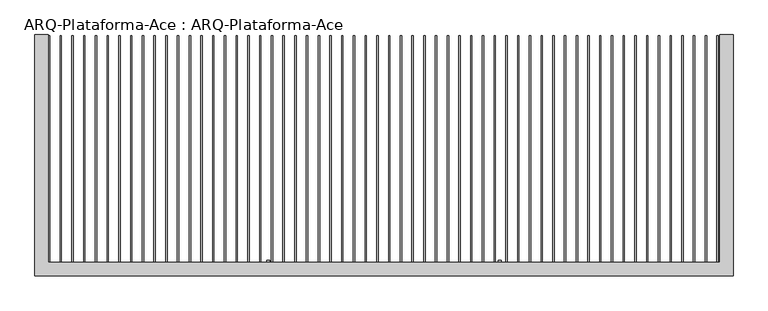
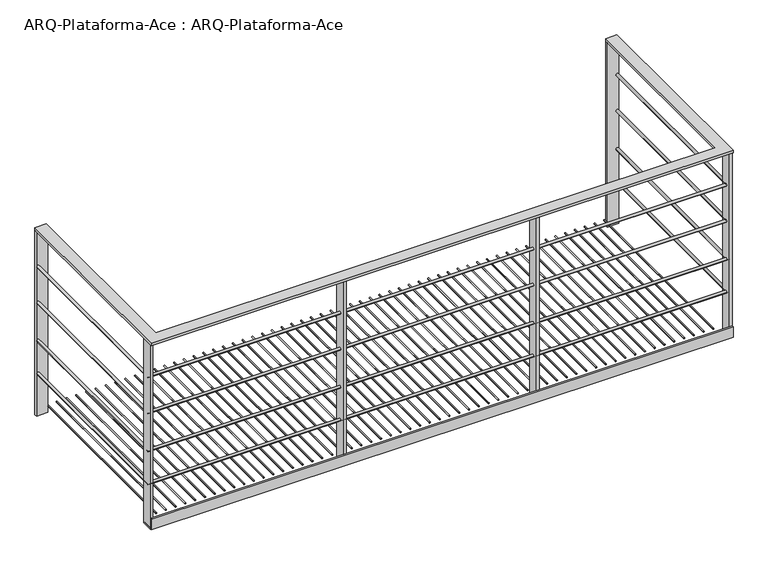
"""IFC4 building model written with IfcOpenShell, lengths in millimetres: proxy geometry, ARQ-Plataforma-Ace : ARQ-Plataforma-Ace."""

from ifc_helpers import new_model, si_unit, point, frame, frame_2d, origin, origin_with_axes, place, context, project, spatial, polyline, circle_curve, ellipse_curve, trimmed, segment, composite_curve, outline, extrude, source, transform, mapped, element, save
from ifc_brep_helpers import plane_surface, cylinder_surface, advanced_brep


def arq_plataforma_ace_arq_plataforma_ace_422f7437(model_context):
    return source(origin(), model_context, "Body", "SolidModel", [
        extrude(outline(polyline([(-1300.0, 475.0), (-1250.0, 475.0), (-1250.0, -373.75), (1250.0, -373.75), (1250.0, 475.0), (1300.0, 475.0), (1300.0, -423.75), (-1300.0, -423.75), (-1300.0, 475.0)])), frame((0.0, 0.0, 870.0), z_axis=(0.0, 0.0, 1.0), x_axis=(1.0, 0.0, 0.0)), (0.0, 0.0, 1.0), 12.5),
        advanced_brep(
        [(1287.75, 462.5, 705.0), (1299.75, 462.5, 705.0), (1287.75, -385.75, 705.0), (1299.75, -397.75, 705.0), (-1287.5, -385.75, 705.0), (-1287.5, -397.75, 705.0), (-1287.75, -385.75, 705.0), (-1299.75, -397.75, 705.0), (-1287.75, 462.5, 705.0), (-1299.75, 462.5, 705.0)],
        [
            (0, 1, circle_curve(frame((1293.75, 462.5, 705.0), z_axis=(0.0, 1.0, 0.0), x_axis=(1.0, 0.0, 0.0)), 6.0)),
            (1, 0, circle_curve(frame((1293.75, 462.5, 705.0), z_axis=(0.0, 1.0, 0.0), x_axis=(1.0, 0.0, 0.0)), 6.0)),
            (0, 2),
            (2, 3, ellipse_curve(frame((1293.75, -391.75, 705.0), z_axis=(0.7071067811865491, 0.7071067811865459, 0.0), x_axis=(-0.7071067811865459, 0.707106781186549, 0.0)), 8.4852814, 6.0)),
            (3, 1),
            (3, 2, ellipse_curve(frame((1293.75, -391.75, 705.0), z_axis=(0.7071067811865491, 0.7071067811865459, 0.0), x_axis=(-0.7071067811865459, 0.707106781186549, 0.0)), 8.4852814, 6.0)),
            (2, 4),
            (4, 5, circle_curve(frame((-1287.5, -391.75, 705.0), z_axis=(1.0, 0.0, 0.0), x_axis=(0.0, -1.0, 0.0)), 6.0)),
            (5, 3),
            (5, 4, circle_curve(frame((-1287.5, -391.75, 705.0), z_axis=(1.0, 0.0, 0.0), x_axis=(0.0, -1.0, 0.0)), 6.0)),
            (4, 6),
            (6, 7, ellipse_curve(frame((-1293.75, -391.75, 705.0), z_axis=(0.7071067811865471, -0.7071067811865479, 0.0), x_axis=(0.7071067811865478, 0.707106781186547, 0.0)), 8.4852814, 6.0)),
            (7, 5),
            (7, 6, ellipse_curve(frame((-1293.75, -391.75, 705.0), z_axis=(0.7071067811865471, -0.7071067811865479, 0.0), x_axis=(0.7071067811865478, 0.707106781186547, 0.0)), 8.4852814, 6.0)),
            (8, 9, circle_curve(frame((-1293.75, 462.5, 705.0), z_axis=(0.0, 1.0, 0.0), x_axis=(-1.0, 0.0, 0.0)), 6.0)),
            (9, 8, circle_curve(frame((-1293.75, 462.5, 705.0), z_axis=(0.0, 1.0, 0.0), x_axis=(-1.0, 0.0, 0.0)), 6.0)),
            (6, 8),
            (9, 7),
        ],
        [
            plane_surface(frame((1293.75, 462.5, 705.0), z_axis=(0.0, 1.0, 0.0), x_axis=(0.0, 0.0, 1.0))),
            cylinder_surface(frame((1293.75, 462.5, 705.0), z_axis=(0.0, 1.0, 0.0), x_axis=(1.0, 0.0, 0.0)), 6.0),
            cylinder_surface(frame((1293.75, -391.75, 705.0), z_axis=(1.0, 0.0, 0.0), x_axis=(0.0, -1.0, 0.0)), 6.0),
            cylinder_surface(frame((-1287.5, -391.75, 705.0), z_axis=(1.0, 0.0, 0.0), x_axis=(0.0, -1.0, 0.0)), 6.0),
            plane_surface(frame((-1293.75, 462.5, 705.0), z_axis=(0.0, 1.0, 0.0), x_axis=(0.0, 0.0, 1.0))),
            cylinder_surface(frame((-1293.75, -391.75, 705.0), z_axis=(0.0, -1.0, 0.0), x_axis=(-1.0, 0.0, 0.0)), 6.0),
        ],
        [
            (0, [[1, 2]]),
            (1, [[-1, 3, 4, 5]]),
            (1, [[-2, -5, 6, -3]]),
            (2, [[-4, 7, 8, 9]]),
            (2, [[-6, -9, 10, -7]]),
            (3, [[-8, 11, 12, 13]]),
            (3, [[-10, -13, 14, -11]]),
            (4, [[15, 16]]),
            (5, [[-12, 17, -16, 18]]),
            (5, [[-14, -18, -15, -17]]),
        ],
    ),
        advanced_brep(
        [(1287.75, 462.5, 535.0), (1299.75, 462.5, 535.0), (1287.75, -385.75, 535.0), (1299.75, -397.75, 535.0), (-1287.5, -385.75, 535.0), (-1287.5, -397.75, 535.0), (-1287.75, -385.75, 535.0), (-1299.75, -397.75, 535.0), (-1287.75, 462.5, 535.0), (-1299.75, 462.5, 535.0)],
        [
            (0, 1, circle_curve(frame((1293.75, 462.5, 535.0), z_axis=(0.0, 1.0, 0.0), x_axis=(1.0, 0.0, 0.0)), 6.0)),
            (1, 0, circle_curve(frame((1293.75, 462.5, 535.0), z_axis=(0.0, 1.0, 0.0), x_axis=(1.0, 0.0, 0.0)), 6.0)),
            (0, 2),
            (2, 3, ellipse_curve(frame((1293.75, -391.75, 535.0), z_axis=(0.7071067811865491, 0.7071067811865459, 0.0), x_axis=(-0.7071067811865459, 0.707106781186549, 0.0)), 8.4852814, 6.0)),
            (3, 1),
            (3, 2, ellipse_curve(frame((1293.75, -391.75, 535.0), z_axis=(0.7071067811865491, 0.7071067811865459, 0.0), x_axis=(-0.7071067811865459, 0.707106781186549, 0.0)), 8.4852814, 6.0)),
            (2, 4),
            (4, 5, circle_curve(frame((-1287.5, -391.75, 535.0), z_axis=(1.0, 0.0, 0.0), x_axis=(0.0, -1.0, 0.0)), 6.0)),
            (5, 3),
            (5, 4, circle_curve(frame((-1287.5, -391.75, 535.0), z_axis=(1.0, 0.0, 0.0), x_axis=(0.0, -1.0, 0.0)), 6.0)),
            (4, 6),
            (6, 7, ellipse_curve(frame((-1293.75, -391.75, 535.0), z_axis=(0.7071067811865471, -0.7071067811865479, 0.0), x_axis=(0.7071067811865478, 0.707106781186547, 0.0)), 8.4852814, 6.0)),
            (7, 5),
            (7, 6, ellipse_curve(frame((-1293.75, -391.75, 535.0), z_axis=(0.7071067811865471, -0.7071067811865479, 0.0), x_axis=(0.7071067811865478, 0.707106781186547, 0.0)), 8.4852814, 6.0)),
            (8, 9, circle_curve(frame((-1293.75, 462.5, 535.0), z_axis=(0.0, 1.0, 0.0), x_axis=(-1.0, 0.0, 0.0)), 6.0)),
            (9, 8, circle_curve(frame((-1293.75, 462.5, 535.0), z_axis=(0.0, 1.0, 0.0), x_axis=(-1.0, 0.0, 0.0)), 6.0)),
            (6, 8),
            (9, 7),
        ],
        [
            plane_surface(frame((1293.75, 462.5, 535.0), z_axis=(0.0, 1.0, 0.0), x_axis=(0.0, 0.0, 1.0))),
            cylinder_surface(frame((1293.75, 462.5, 535.0), z_axis=(0.0, 1.0, 0.0), x_axis=(1.0, 0.0, 0.0)), 6.0),
            cylinder_surface(frame((1293.75, -391.75, 535.0), z_axis=(1.0, 0.0, 0.0), x_axis=(0.0, -1.0, 0.0)), 6.0),
            cylinder_surface(frame((-1287.5, -391.75, 535.0), z_axis=(1.0, 0.0, 0.0), x_axis=(0.0, -1.0, 0.0)), 6.0),
            plane_surface(frame((-1293.75, 462.5, 535.0), z_axis=(0.0, 1.0, 0.0), x_axis=(0.0, 0.0, 1.0))),
            cylinder_surface(frame((-1293.75, -391.75, 535.0), z_axis=(0.0, -1.0, 0.0), x_axis=(-1.0, 0.0, 0.0)), 6.0),
        ],
        [
            (0, [[1, 2]]),
            (1, [[-1, 3, 4, 5]]),
            (1, [[-2, -5, 6, -3]]),
            (2, [[-4, 7, 8, 9]]),
            (2, [[-6, -9, 10, -7]]),
            (3, [[-8, 11, 12, 13]]),
            (3, [[-10, -13, 14, -11]]),
            (4, [[15, 16]]),
            (5, [[-12, 17, -16, 18]]),
            (5, [[-14, -18, -15, -17]]),
        ],
    ),
        advanced_brep(
        [(1287.75, 462.5, 355.0), (1299.75, 462.5, 355.0), (1287.75, -385.75, 355.0), (1299.75, -397.75, 355.0), (-1287.5, -385.75, 355.0), (-1287.5, -397.75, 355.0), (-1287.75, -385.75, 355.0), (-1299.75, -397.75, 355.0), (-1287.75, 462.5, 355.0), (-1299.75, 462.5, 355.0)],
        [
            (0, 1, circle_curve(frame((1293.75, 462.5, 355.0), z_axis=(0.0, 1.0, 0.0), x_axis=(1.0, 0.0, 0.0)), 6.0)),
            (1, 0, circle_curve(frame((1293.75, 462.5, 355.0), z_axis=(0.0, 1.0, 0.0), x_axis=(1.0, 0.0, 0.0)), 6.0)),
            (0, 2),
            (2, 3, ellipse_curve(frame((1293.75, -391.75, 355.0), z_axis=(0.7071067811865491, 0.7071067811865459, 0.0), x_axis=(-0.7071067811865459, 0.707106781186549, 0.0)), 8.4852814, 6.0)),
            (3, 1),
            (3, 2, ellipse_curve(frame((1293.75, -391.75, 355.0), z_axis=(0.7071067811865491, 0.7071067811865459, 0.0), x_axis=(-0.7071067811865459, 0.707106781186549, 0.0)), 8.4852814, 6.0)),
            (2, 4),
            (4, 5, circle_curve(frame((-1287.5, -391.75, 355.0), z_axis=(1.0, 0.0, 0.0), x_axis=(0.0, -1.0, 0.0)), 6.0)),
            (5, 3),
            (5, 4, circle_curve(frame((-1287.5, -391.75, 355.0), z_axis=(1.0, 0.0, 0.0), x_axis=(0.0, -1.0, 0.0)), 6.0)),
            (4, 6),
            (6, 7, ellipse_curve(frame((-1293.75, -391.75, 355.0), z_axis=(0.7071067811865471, -0.7071067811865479, 0.0), x_axis=(0.7071067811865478, 0.707106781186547, 0.0)), 8.4852814, 6.0)),
            (7, 5),
            (7, 6, ellipse_curve(frame((-1293.75, -391.75, 355.0), z_axis=(0.7071067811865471, -0.7071067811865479, 0.0), x_axis=(0.7071067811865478, 0.707106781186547, 0.0)), 8.4852814, 6.0)),
            (8, 9, circle_curve(frame((-1293.75, 462.5, 355.0), z_axis=(0.0, 1.0, 0.0), x_axis=(-1.0, 0.0, 0.0)), 6.0)),
            (9, 8, circle_curve(frame((-1293.75, 462.5, 355.0), z_axis=(0.0, 1.0, 0.0), x_axis=(-1.0, 0.0, 0.0)), 6.0)),
            (6, 8),
            (9, 7),
        ],
        [
            plane_surface(frame((1293.75, 462.5, 355.0), z_axis=(0.0, 1.0, 0.0), x_axis=(0.0, 0.0, 1.0))),
            cylinder_surface(frame((1293.75, 462.5, 355.0), z_axis=(0.0, 1.0, 0.0), x_axis=(1.0, 0.0, 0.0)), 6.0),
            cylinder_surface(frame((1293.75, -391.75, 355.0), z_axis=(1.0, 0.0, 0.0), x_axis=(0.0, -1.0, 0.0)), 6.0),
            cylinder_surface(frame((-1287.5, -391.75, 355.0), z_axis=(1.0, 0.0, 0.0), x_axis=(0.0, -1.0, 0.0)), 6.0),
            plane_surface(frame((-1293.75, 462.5, 355.0), z_axis=(0.0, 1.0, 0.0), x_axis=(0.0, 0.0, 1.0))),
            cylinder_surface(frame((-1293.75, -391.75, 355.0), z_axis=(0.0, -1.0, 0.0), x_axis=(-1.0, 0.0, 0.0)), 6.0),
        ],
        [
            (0, [[1, 2]]),
            (1, [[-1, 3, 4, 5]]),
            (1, [[-2, -5, 6, -3]]),
            (2, [[-4, 7, 8, 9]]),
            (2, [[-6, -9, 10, -7]]),
            (3, [[-8, 11, 12, 13]]),
            (3, [[-10, -13, 14, -11]]),
            (4, [[15, 16]]),
            (5, [[-12, 17, -16, 18]]),
            (5, [[-14, -18, -15, -17]]),
        ],
    ),
        advanced_brep(
        [(1287.75, 462.5, 200.0), (1299.75, 462.5, 200.0), (1287.75, -385.75, 200.0), (1299.75, -397.75, 200.0), (-1287.5, -385.75, 200.0), (-1287.5, -397.75, 200.0), (-1287.75, -385.75, 200.0), (-1299.75, -397.75, 200.0), (-1287.75, 462.5, 200.0), (-1299.75, 462.5, 200.0)],
        [
            (0, 1, circle_curve(frame((1293.75, 462.5, 200.0), z_axis=(0.0, 1.0, 0.0), x_axis=(1.0, 0.0, 0.0)), 6.0)),
            (1, 0, circle_curve(frame((1293.75, 462.5, 200.0), z_axis=(0.0, 1.0, 0.0), x_axis=(1.0, 0.0, 0.0)), 6.0)),
            (0, 2),
            (2, 3, ellipse_curve(frame((1293.75, -391.75, 200.0), z_axis=(0.7071067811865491, 0.7071067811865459, 0.0), x_axis=(-0.7071067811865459, 0.707106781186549, 0.0)), 8.4852814, 6.0)),
            (3, 1),
            (3, 2, ellipse_curve(frame((1293.75, -391.75, 200.0), z_axis=(0.7071067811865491, 0.7071067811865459, 0.0), x_axis=(-0.7071067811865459, 0.707106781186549, 0.0)), 8.4852814, 6.0)),
            (2, 4),
            (4, 5, circle_curve(frame((-1287.5, -391.75, 200.0), z_axis=(1.0, 0.0, 0.0), x_axis=(0.0, -1.0, 0.0)), 6.0)),
            (5, 3),
            (5, 4, circle_curve(frame((-1287.5, -391.75, 200.0), z_axis=(1.0, 0.0, 0.0), x_axis=(0.0, -1.0, 0.0)), 6.0)),
            (4, 6),
            (6, 7, ellipse_curve(frame((-1293.75, -391.75, 200.0), z_axis=(0.7071067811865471, -0.7071067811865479, 0.0), x_axis=(0.7071067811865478, 0.707106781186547, 0.0)), 8.4852814, 6.0)),
            (7, 5),
            (7, 6, ellipse_curve(frame((-1293.75, -391.75, 200.0), z_axis=(0.7071067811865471, -0.7071067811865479, 0.0), x_axis=(0.7071067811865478, 0.707106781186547, 0.0)), 8.4852814, 6.0)),
            (8, 9, circle_curve(frame((-1293.75, 462.5, 200.0), z_axis=(0.0, 1.0, 0.0), x_axis=(-1.0, 0.0, 0.0)), 6.0)),
            (9, 8, circle_curve(frame((-1293.75, 462.5, 200.0), z_axis=(0.0, 1.0, 0.0), x_axis=(-1.0, 0.0, 0.0)), 6.0)),
            (6, 8),
            (9, 7),
        ],
        [
            plane_surface(frame((1293.75, 462.5, 200.0), z_axis=(0.0, 1.0, 0.0), x_axis=(0.0, 0.0, 1.0))),
            cylinder_surface(frame((1293.75, 462.5, 200.0), z_axis=(0.0, 1.0, 0.0), x_axis=(1.0, 0.0, 0.0)), 6.0),
            cylinder_surface(frame((1293.75, -391.75, 200.0), z_axis=(1.0, 0.0, 0.0), x_axis=(0.0, -1.0, 0.0)), 6.0),
            cylinder_surface(frame((-1287.5, -391.75, 200.0), z_axis=(1.0, 0.0, 0.0), x_axis=(0.0, -1.0, 0.0)), 6.0),
            plane_surface(frame((-1293.75, 462.5, 200.0), z_axis=(0.0, 1.0, 0.0), x_axis=(0.0, 0.0, 1.0))),
            cylinder_surface(frame((-1293.75, -391.75, 200.0), z_axis=(0.0, -1.0, 0.0), x_axis=(-1.0, 0.0, 0.0)), 6.0),
        ],
        [
            (0, [[1, 2]]),
            (1, [[-1, 3, 4, 5]]),
            (1, [[-2, -5, 6, -3]]),
            (2, [[-4, 7, 8, 9]]),
            (2, [[-6, -9, 10, -7]]),
            (3, [[-8, 11, 12, 13]]),
            (3, [[-10, -13, 14, -11]]),
            (4, [[15, 16]]),
            (5, [[-12, 17, -16, 18]]),
            (5, [[-14, -18, -15, -17]]),
        ],
    ),
        extrude(outline(polyline([(-1250.0, 475.0), (-1250.0, 462.5), (-1300.0, 462.5), (-1300.0, 475.0), (-1250.0, 475.0)])), origin_with_axes(), (0.0, 0.0, 1.0), 870.0),
        extrude(outline(polyline([(1300.0, 475.0), (1300.0, 462.5), (1250.0, 462.5), (1250.0, 475.0), (1300.0, 475.0)])), origin_with_axes(), (0.0, 0.0, 1.0), 870.0),
        extrude(outline(polyline([(437.5, -366.75), (437.5, -416.75), (425.0, -416.75), (425.0, -366.75), (437.5, -366.75)])), origin_with_axes(), (0.0, 0.0, 1.0), 870.0),
        extrude(outline(polyline([(-425.0, -366.75), (-425.0, -416.75), (-437.5, -416.75), (-437.5, -366.75), (-425.0, -366.75)])), origin_with_axes(), (0.0, 0.0, 1.0), 870.0),
        extrude(outline(polyline([(1300.0, -366.75), (1300.0, -416.75), (1287.5, -416.75), (1287.5, -366.75), (1300.0, -366.75)])), origin_with_axes(), (0.0, 0.0, 1.0), 870.0),
        extrude(outline(polyline([(-1287.5, -366.75), (-1287.5, -416.75), (-1300.0, -416.75), (-1300.0, -366.75), (-1287.5, -366.75)])), origin_with_axes(), (0.0, 0.0, 1.0), 870.0),
        extrude(outline(polyline([(-423.75, 0.0), (-423.75, 50.0), (-416.75, 50.0), (-416.75, 7.0), (-373.75, 7.0), (-373.75, 0.0), (-423.75, 0.0)])), frame((-1300.0, 0.0, 0.0), z_axis=(1.0, 0.0, 0.0), x_axis=(0.0, 1.0, 0.0)), (0.0, 0.0, 1.0), 2600.0),
        extrude(outline(composite_curve([segment(trimmed(circle_curve(frame_2d((28.8398929, 1242.2801359)), 2.5), [point((28.8398929, 1239.7801359))], [point((28.8398929, 1244.7801359))], False, "CARTESIAN"), True, "CONTINUOUS"), segment(trimmed(circle_curve(frame_2d((28.8398929, 1242.2801359)), 2.5), [point((28.8398929, 1244.7801359))], [point((28.8398929, 1239.7801359))], False, "CARTESIAN"), True, "CONTINUOUS")], self_intersect=False)), frame((0.0, -371.25, 0.0), z_axis=(0.0, 1.0, 0.0), x_axis=(0.0, 0.0, 1.0)), (0.0, 0.0, 1.0), 843.75),
        extrude(outline(composite_curve([segment(trimmed(circle_curve(frame_2d((28.8398929, 1198.6056767)), 2.5), [point((28.8398929, 1196.1056767))], [point((28.8398929, 1201.1056767))], False, "CARTESIAN"), True, "CONTINUOUS"), segment(trimmed(circle_curve(frame_2d((28.8398929, 1198.6056767)), 2.5), [point((28.8398929, 1201.1056767))], [point((28.8398929, 1196.1056767))], False, "CARTESIAN"), True, "CONTINUOUS")], self_intersect=False)), frame((0.0, -371.25, 0.0), z_axis=(0.0, 1.0, 0.0), x_axis=(0.0, 0.0, 1.0)), (0.0, 0.0, 1.0), 843.75),
        extrude(outline(composite_curve([segment(trimmed(circle_curve(frame_2d((28.8398929, 1154.9312175)), 2.5), [point((28.8398929, 1152.4312175))], [point((28.8398929, 1157.4312175))], False, "CARTESIAN"), True, "CONTINUOUS"), segment(trimmed(circle_curve(frame_2d((28.8398929, 1154.9312175)), 2.5), [point((28.8398929, 1157.4312175))], [point((28.8398929, 1152.4312175))], False, "CARTESIAN"), True, "CONTINUOUS")], self_intersect=False)), frame((0.0, -371.25, 0.0), z_axis=(0.0, 1.0, 0.0), x_axis=(0.0, 0.0, 1.0)), (0.0, 0.0, 1.0), 843.75),
        extrude(outline(composite_curve([segment(trimmed(circle_curve(frame_2d((28.8398929, 1111.2567584)), 2.5), [point((28.8398929, 1108.7567584))], [point((28.8398929, 1113.7567584))], False, "CARTESIAN"), True, "CONTINUOUS"), segment(trimmed(circle_curve(frame_2d((28.8398929, 1111.2567584)), 2.5), [point((28.8398929, 1113.7567584))], [point((28.8398929, 1108.7567584))], False, "CARTESIAN"), True, "CONTINUOUS")], self_intersect=False)), frame((0.0, -371.25, 0.0), z_axis=(0.0, 1.0, 0.0), x_axis=(0.0, 0.0, 1.0)), (0.0, 0.0, 1.0), 843.75),
        extrude(outline(composite_curve([segment(trimmed(circle_curve(frame_2d((28.8398929, 1067.5822992)), 2.5), [point((28.8398929, 1065.0822992))], [point((28.8398929, 1070.0822992))], False, "CARTESIAN"), True, "CONTINUOUS"), segment(trimmed(circle_curve(frame_2d((28.8398929, 1067.5822992)), 2.5), [point((28.8398929, 1070.0822992))], [point((28.8398929, 1065.0822992))], False, "CARTESIAN"), True, "CONTINUOUS")], self_intersect=False)), frame((0.0, -371.25, 0.0), z_axis=(0.0, 1.0, 0.0), x_axis=(0.0, 0.0, 1.0)), (0.0, 0.0, 1.0), 843.75),
        extrude(outline(composite_curve([segment(trimmed(circle_curve(frame_2d((28.8398929, 1023.90784)), 2.5), [point((28.8398929, 1021.40784))], [point((28.8398929, 1026.40784))], False, "CARTESIAN"), True, "CONTINUOUS"), segment(trimmed(circle_curve(frame_2d((28.8398929, 1023.90784)), 2.5), [point((28.8398929, 1026.40784))], [point((28.8398929, 1021.40784))], False, "CARTESIAN"), True, "CONTINUOUS")], self_intersect=False)), frame((0.0, -371.25, 0.0), z_axis=(0.0, 1.0, 0.0), x_axis=(0.0, 0.0, 1.0)), (0.0, 0.0, 1.0), 843.75),
        extrude(outline(composite_curve([segment(trimmed(circle_curve(frame_2d((28.8398929, 980.2333808)), 2.5), [point((28.8398929, 977.7333808))], [point((28.8398929, 982.7333808))], False, "CARTESIAN"), True, "CONTINUOUS"), segment(trimmed(circle_curve(frame_2d((28.8398929, 980.2333808)), 2.5), [point((28.8398929, 982.7333808))], [point((28.8398929, 977.7333808))], False, "CARTESIAN"), True, "CONTINUOUS")], self_intersect=False)), frame((0.0, -371.25, 0.0), z_axis=(0.0, 1.0, 0.0), x_axis=(0.0, 0.0, 1.0)), (0.0, 0.0, 1.0), 843.75),
        extrude(outline(composite_curve([segment(trimmed(circle_curve(frame_2d((28.8398929, 936.5589217)), 2.5), [point((28.8398929, 934.0589217))], [point((28.8398929, 939.0589217))], False, "CARTESIAN"), True, "CONTINUOUS"), segment(trimmed(circle_curve(frame_2d((28.8398929, 936.5589217)), 2.5), [point((28.8398929, 939.0589217))], [point((28.8398929, 934.0589217))], False, "CARTESIAN"), True, "CONTINUOUS")], self_intersect=False)), frame((0.0, -371.25, 0.0), z_axis=(0.0, 1.0, 0.0), x_axis=(0.0, 0.0, 1.0)), (0.0, 0.0, 1.0), 843.75),
        extrude(outline(composite_curve([segment(trimmed(circle_curve(frame_2d((28.8398929, 892.8844625)), 2.5), [point((28.8398929, 890.3844625))], [point((28.8398929, 895.3844625))], False, "CARTESIAN"), True, "CONTINUOUS"), segment(trimmed(circle_curve(frame_2d((28.8398929, 892.8844625)), 2.5), [point((28.8398929, 895.3844625))], [point((28.8398929, 890.3844625))], False, "CARTESIAN"), True, "CONTINUOUS")], self_intersect=False)), frame((0.0, -371.25, 0.0), z_axis=(0.0, 1.0, 0.0), x_axis=(0.0, 0.0, 1.0)), (0.0, 0.0, 1.0), 843.75),
        extrude(outline(composite_curve([segment(trimmed(circle_curve(frame_2d((28.8398929, 849.2100033)), 2.5), [point((28.8398929, 846.7100033))], [point((28.8398929, 851.7100033))], False, "CARTESIAN"), True, "CONTINUOUS"), segment(trimmed(circle_curve(frame_2d((28.8398929, 849.2100033)), 2.5), [point((28.8398929, 851.7100033))], [point((28.8398929, 846.7100033))], False, "CARTESIAN"), True, "CONTINUOUS")], self_intersect=False)), frame((0.0, -371.25, 0.0), z_axis=(0.0, 1.0, 0.0), x_axis=(0.0, 0.0, 1.0)), (0.0, 0.0, 1.0), 843.75),
        extrude(outline(composite_curve([segment(trimmed(circle_curve(frame_2d((28.8398929, 805.5355441)), 2.5), [point((28.8398929, 803.0355441))], [point((28.8398929, 808.0355441))], False, "CARTESIAN"), True, "CONTINUOUS"), segment(trimmed(circle_curve(frame_2d((28.8398929, 805.5355441)), 2.5), [point((28.8398929, 808.0355441))], [point((28.8398929, 803.0355441))], False, "CARTESIAN"), True, "CONTINUOUS")], self_intersect=False)), frame((0.0, -371.25, 0.0), z_axis=(0.0, 1.0, 0.0), x_axis=(0.0, 0.0, 1.0)), (0.0, 0.0, 1.0), 843.75),
        extrude(outline(composite_curve([segment(trimmed(circle_curve(frame_2d((28.8398929, 761.861085)), 2.5), [point((28.8398929, 759.361085))], [point((28.8398929, 764.361085))], False, "CARTESIAN"), True, "CONTINUOUS"), segment(trimmed(circle_curve(frame_2d((28.8398929, 761.861085)), 2.5), [point((28.8398929, 764.361085))], [point((28.8398929, 759.361085))], False, "CARTESIAN"), True, "CONTINUOUS")], self_intersect=False)), frame((0.0, -371.25, 0.0), z_axis=(0.0, 1.0, 0.0), x_axis=(0.0, 0.0, 1.0)), (0.0, 0.0, 1.0), 843.75),
        extrude(outline(composite_curve([segment(trimmed(circle_curve(frame_2d((28.8398929, 718.1866258)), 2.5), [point((28.8398929, 715.6866258))], [point((28.8398929, 720.6866258))], False, "CARTESIAN"), True, "CONTINUOUS"), segment(trimmed(circle_curve(frame_2d((28.8398929, 718.1866258)), 2.5), [point((28.8398929, 720.6866258))], [point((28.8398929, 715.6866258))], False, "CARTESIAN"), True, "CONTINUOUS")], self_intersect=False)), frame((0.0, -371.25, 0.0), z_axis=(0.0, 1.0, 0.0), x_axis=(0.0, 0.0, 1.0)), (0.0, 0.0, 1.0), 843.75),
        extrude(outline(composite_curve([segment(trimmed(circle_curve(frame_2d((28.8398929, 674.5121666)), 2.5), [point((28.8398929, 672.0121666))], [point((28.8398929, 677.0121666))], False, "CARTESIAN"), True, "CONTINUOUS"), segment(trimmed(circle_curve(frame_2d((28.8398929, 674.5121666)), 2.5), [point((28.8398929, 677.0121666))], [point((28.8398929, 672.0121666))], False, "CARTESIAN"), True, "CONTINUOUS")], self_intersect=False)), frame((0.0, -371.25, 0.0), z_axis=(0.0, 1.0, 0.0), x_axis=(0.0, 0.0, 1.0)), (0.0, 0.0, 1.0), 843.75),
        extrude(outline(composite_curve([segment(trimmed(circle_curve(frame_2d((28.8398929, 630.8377074)), 2.5), [point((28.8398929, 628.3377074))], [point((28.8398929, 633.3377074))], False, "CARTESIAN"), True, "CONTINUOUS"), segment(trimmed(circle_curve(frame_2d((28.8398929, 630.8377074)), 2.5), [point((28.8398929, 633.3377074))], [point((28.8398929, 628.3377074))], False, "CARTESIAN"), True, "CONTINUOUS")], self_intersect=False)), frame((0.0, -371.25, 0.0), z_axis=(0.0, 1.0, 0.0), x_axis=(0.0, 0.0, 1.0)), (0.0, 0.0, 1.0), 843.75),
        extrude(outline(composite_curve([segment(trimmed(circle_curve(frame_2d((28.8398929, 587.1632483)), 2.5), [point((28.8398929, 584.6632483))], [point((28.8398929, 589.6632483))], False, "CARTESIAN"), True, "CONTINUOUS"), segment(trimmed(circle_curve(frame_2d((28.8398929, 587.1632483)), 2.5), [point((28.8398929, 589.6632483))], [point((28.8398929, 584.6632483))], False, "CARTESIAN"), True, "CONTINUOUS")], self_intersect=False)), frame((0.0, -371.25, 0.0), z_axis=(0.0, 1.0, 0.0), x_axis=(0.0, 0.0, 1.0)), (0.0, 0.0, 1.0), 843.75),
        extrude(outline(composite_curve([segment(trimmed(circle_curve(frame_2d((28.8398929, 543.4887891)), 2.5), [point((28.8398929, 540.9887891))], [point((28.8398929, 545.9887891))], False, "CARTESIAN"), True, "CONTINUOUS"), segment(trimmed(circle_curve(frame_2d((28.8398929, 543.4887891)), 2.5), [point((28.8398929, 545.9887891))], [point((28.8398929, 540.9887891))], False, "CARTESIAN"), True, "CONTINUOUS")], self_intersect=False)), frame((0.0, -371.25, 0.0), z_axis=(0.0, 1.0, 0.0), x_axis=(0.0, 0.0, 1.0)), (0.0, 0.0, 1.0), 843.75),
        extrude(outline(composite_curve([segment(trimmed(circle_curve(frame_2d((28.8398929, 499.8143299)), 2.5), [point((28.8398929, 497.3143299))], [point((28.8398929, 502.3143299))], False, "CARTESIAN"), True, "CONTINUOUS"), segment(trimmed(circle_curve(frame_2d((28.8398929, 499.8143299)), 2.5), [point((28.8398929, 502.3143299))], [point((28.8398929, 497.3143299))], False, "CARTESIAN"), True, "CONTINUOUS")], self_intersect=False)), frame((0.0, -371.25, 0.0), z_axis=(0.0, 1.0, 0.0), x_axis=(0.0, 0.0, 1.0)), (0.0, 0.0, 1.0), 843.75),
        extrude(outline(composite_curve([segment(trimmed(circle_curve(frame_2d((28.8398929, 456.1398707)), 2.5), [point((28.8398929, 453.6398707))], [point((28.8398929, 458.6398707))], False, "CARTESIAN"), True, "CONTINUOUS"), segment(trimmed(circle_curve(frame_2d((28.8398929, 456.1398707)), 2.5), [point((28.8398929, 458.6398707))], [point((28.8398929, 453.6398707))], False, "CARTESIAN"), True, "CONTINUOUS")], self_intersect=False)), frame((0.0, -371.25, 0.0), z_axis=(0.0, 1.0, 0.0), x_axis=(0.0, 0.0, 1.0)), (0.0, 0.0, 1.0), 843.75),
        extrude(outline(composite_curve([segment(trimmed(circle_curve(frame_2d((28.8398929, 412.4654116)), 2.5), [point((28.8398929, 409.9654116))], [point((28.8398929, 414.9654116))], False, "CARTESIAN"), True, "CONTINUOUS"), segment(trimmed(circle_curve(frame_2d((28.8398929, 412.4654116)), 2.5), [point((28.8398929, 414.9654116))], [point((28.8398929, 409.9654116))], False, "CARTESIAN"), True, "CONTINUOUS")], self_intersect=False)), frame((0.0, -371.25, 0.0), z_axis=(0.0, 1.0, 0.0), x_axis=(0.0, 0.0, 1.0)), (0.0, 0.0, 1.0), 843.75),
        extrude(outline(composite_curve([segment(trimmed(circle_curve(frame_2d((28.8398929, 368.7909524)), 2.5), [point((28.8398929, 366.2909524))], [point((28.8398929, 371.2909524))], False, "CARTESIAN"), True, "CONTINUOUS"), segment(trimmed(circle_curve(frame_2d((28.8398929, 368.7909524)), 2.5), [point((28.8398929, 371.2909524))], [point((28.8398929, 366.2909524))], False, "CARTESIAN"), True, "CONTINUOUS")], self_intersect=False)), frame((0.0, -371.25, 0.0), z_axis=(0.0, 1.0, 0.0), x_axis=(0.0, 0.0, 1.0)), (0.0, 0.0, 1.0), 843.75),
        extrude(outline(composite_curve([segment(trimmed(circle_curve(frame_2d((28.8398929, 325.1164932)), 2.5), [point((28.8398929, 322.6164932))], [point((28.8398929, 327.6164932))], False, "CARTESIAN"), True, "CONTINUOUS"), segment(trimmed(circle_curve(frame_2d((28.8398929, 325.1164932)), 2.5), [point((28.8398929, 327.6164932))], [point((28.8398929, 322.6164932))], False, "CARTESIAN"), True, "CONTINUOUS")], self_intersect=False)), frame((0.0, -371.25, 0.0), z_axis=(0.0, 1.0, 0.0), x_axis=(0.0, 0.0, 1.0)), (0.0, 0.0, 1.0), 843.75),
        extrude(outline(composite_curve([segment(trimmed(circle_curve(frame_2d((28.8398929, 281.442034)), 2.5), [point((28.8398929, 278.942034))], [point((28.8398929, 283.942034))], False, "CARTESIAN"), True, "CONTINUOUS"), segment(trimmed(circle_curve(frame_2d((28.8398929, 281.442034)), 2.5), [point((28.8398929, 283.942034))], [point((28.8398929, 278.942034))], False, "CARTESIAN"), True, "CONTINUOUS")], self_intersect=False)), frame((0.0, -371.25, 0.0), z_axis=(0.0, 1.0, 0.0), x_axis=(0.0, 0.0, 1.0)), (0.0, 0.0, 1.0), 843.75),
        extrude(outline(composite_curve([segment(trimmed(circle_curve(frame_2d((28.8398929, 237.7675749)), 2.5), [point((28.8398929, 235.2675749))], [point((28.8398929, 240.2675749))], False, "CARTESIAN"), True, "CONTINUOUS"), segment(trimmed(circle_curve(frame_2d((28.8398929, 237.7675749)), 2.5), [point((28.8398929, 240.2675749))], [point((28.8398929, 235.2675749))], False, "CARTESIAN"), True, "CONTINUOUS")], self_intersect=False)), frame((0.0, -371.25, 0.0), z_axis=(0.0, 1.0, 0.0), x_axis=(0.0, 0.0, 1.0)), (0.0, 0.0, 1.0), 843.75),
        extrude(outline(composite_curve([segment(trimmed(circle_curve(frame_2d((28.8398929, 194.0931157)), 2.5), [point((28.8398929, 191.5931157))], [point((28.8398929, 196.5931157))], False, "CARTESIAN"), True, "CONTINUOUS"), segment(trimmed(circle_curve(frame_2d((28.8398929, 194.0931157)), 2.5), [point((28.8398929, 196.5931157))], [point((28.8398929, 191.5931157))], False, "CARTESIAN"), True, "CONTINUOUS")], self_intersect=False)), frame((0.0, -371.25, 0.0), z_axis=(0.0, 1.0, 0.0), x_axis=(0.0, 0.0, 1.0)), (0.0, 0.0, 1.0), 843.75),
        extrude(outline(composite_curve([segment(trimmed(circle_curve(frame_2d((28.8398929, 150.4186565)), 2.5), [point((28.8398929, 147.9186565))], [point((28.8398929, 152.9186565))], False, "CARTESIAN"), True, "CONTINUOUS"), segment(trimmed(circle_curve(frame_2d((28.8398929, 150.4186565)), 2.5), [point((28.8398929, 152.9186565))], [point((28.8398929, 147.9186565))], False, "CARTESIAN"), True, "CONTINUOUS")], self_intersect=False)), frame((0.0, -371.25, 0.0), z_axis=(0.0, 1.0, 0.0), x_axis=(0.0, 0.0, 1.0)), (0.0, 0.0, 1.0), 843.75),
        extrude(outline(composite_curve([segment(trimmed(circle_curve(frame_2d((28.8398929, 106.7441973)), 2.5), [point((28.8398929, 104.2441973))], [point((28.8398929, 109.2441973))], False, "CARTESIAN"), True, "CONTINUOUS"), segment(trimmed(circle_curve(frame_2d((28.8398929, 106.7441973)), 2.5), [point((28.8398929, 109.2441973))], [point((28.8398929, 104.2441973))], False, "CARTESIAN"), True, "CONTINUOUS")], self_intersect=False)), frame((0.0, -371.25, 0.0), z_axis=(0.0, 1.0, 0.0), x_axis=(0.0, 0.0, 1.0)), (0.0, 0.0, 1.0), 843.75),
        extrude(outline(composite_curve([segment(trimmed(circle_curve(frame_2d((28.8398929, 63.0697382)), 2.5), [point((28.8398929, 60.5697382))], [point((28.8398929, 65.5697382))], False, "CARTESIAN"), True, "CONTINUOUS"), segment(trimmed(circle_curve(frame_2d((28.8398929, 63.0697382)), 2.5), [point((28.8398929, 65.5697382))], [point((28.8398929, 60.5697382))], False, "CARTESIAN"), True, "CONTINUOUS")], self_intersect=False)), frame((0.0, -371.25, 0.0), z_axis=(0.0, 1.0, 0.0), x_axis=(0.0, 0.0, 1.0)), (0.0, 0.0, 1.0), 843.75),
        extrude(outline(composite_curve([segment(trimmed(circle_curve(frame_2d((28.8398929, 19.395279)), 2.5), [point((28.8398929, 16.895279))], [point((28.8398929, 21.895279))], False, "CARTESIAN"), True, "CONTINUOUS"), segment(trimmed(circle_curve(frame_2d((28.8398929, 19.395279)), 2.5), [point((28.8398929, 21.895279))], [point((28.8398929, 16.895279))], False, "CARTESIAN"), True, "CONTINUOUS")], self_intersect=False)), frame((0.0, -371.25, 0.0), z_axis=(0.0, 1.0, 0.0), x_axis=(0.0, 0.0, 1.0)), (0.0, 0.0, 1.0), 843.75),
        extrude(outline(composite_curve([segment(trimmed(circle_curve(frame_2d((28.8398929, -24.2791802)), 2.5), [point((28.8398929, -26.7791802))], [point((28.8398929, -21.7791802))], False, "CARTESIAN"), True, "CONTINUOUS"), segment(trimmed(circle_curve(frame_2d((28.8398929, -24.2791802)), 2.5), [point((28.8398929, -21.7791802))], [point((28.8398929, -26.7791802))], False, "CARTESIAN"), True, "CONTINUOUS")], self_intersect=False)), frame((0.0, -371.25, 0.0), z_axis=(0.0, 1.0, 0.0), x_axis=(0.0, 0.0, 1.0)), (0.0, 0.0, 1.0), 843.75),
        extrude(outline(composite_curve([segment(trimmed(circle_curve(frame_2d((28.8398929, -67.9536394)), 2.5), [point((28.8398929, -70.4536394))], [point((28.8398929, -65.4536394))], False, "CARTESIAN"), True, "CONTINUOUS"), segment(trimmed(circle_curve(frame_2d((28.8398929, -67.9536394)), 2.5), [point((28.8398929, -65.4536394))], [point((28.8398929, -70.4536394))], False, "CARTESIAN"), True, "CONTINUOUS")], self_intersect=False)), frame((0.0, -371.25, 0.0), z_axis=(0.0, 1.0, 0.0), x_axis=(0.0, 0.0, 1.0)), (0.0, 0.0, 1.0), 843.75),
        extrude(outline(composite_curve([segment(trimmed(circle_curve(frame_2d((28.8398929, -111.6280985)), 2.5), [point((28.8398929, -114.1280985))], [point((28.8398929, -109.1280985))], False, "CARTESIAN"), True, "CONTINUOUS"), segment(trimmed(circle_curve(frame_2d((28.8398929, -111.6280985)), 2.5), [point((28.8398929, -109.1280985))], [point((28.8398929, -114.1280985))], False, "CARTESIAN"), True, "CONTINUOUS")], self_intersect=False)), frame((0.0, -371.25, 0.0), z_axis=(0.0, 1.0, 0.0), x_axis=(0.0, 0.0, 1.0)), (0.0, 0.0, 1.0), 843.75),
        extrude(outline(composite_curve([segment(trimmed(circle_curve(frame_2d((28.8398929, -155.3025577)), 2.5), [point((28.8398929, -157.8025577))], [point((28.8398929, -152.8025577))], False, "CARTESIAN"), True, "CONTINUOUS"), segment(trimmed(circle_curve(frame_2d((28.8398929, -155.3025577)), 2.5), [point((28.8398929, -152.8025577))], [point((28.8398929, -157.8025577))], False, "CARTESIAN"), True, "CONTINUOUS")], self_intersect=False)), frame((0.0, -371.25, 0.0), z_axis=(0.0, 1.0, 0.0), x_axis=(0.0, 0.0, 1.0)), (0.0, 0.0, 1.0), 843.75),
        extrude(outline(composite_curve([segment(trimmed(circle_curve(frame_2d((28.8398929, -198.9770169)), 2.5), [point((28.8398929, -201.4770169))], [point((28.8398929, -196.4770169))], False, "CARTESIAN"), True, "CONTINUOUS"), segment(trimmed(circle_curve(frame_2d((28.8398929, -198.9770169)), 2.5), [point((28.8398929, -196.4770169))], [point((28.8398929, -201.4770169))], False, "CARTESIAN"), True, "CONTINUOUS")], self_intersect=False)), frame((0.0, -371.25, 0.0), z_axis=(0.0, 1.0, 0.0), x_axis=(0.0, 0.0, 1.0)), (0.0, 0.0, 1.0), 843.75),
        extrude(outline(composite_curve([segment(trimmed(circle_curve(frame_2d((28.8398929, -242.6514761)), 2.5), [point((28.8398929, -245.1514761))], [point((28.8398929, -240.1514761))], False, "CARTESIAN"), True, "CONTINUOUS"), segment(trimmed(circle_curve(frame_2d((28.8398929, -242.6514761)), 2.5), [point((28.8398929, -240.1514761))], [point((28.8398929, -245.1514761))], False, "CARTESIAN"), True, "CONTINUOUS")], self_intersect=False)), frame((0.0, -371.25, 0.0), z_axis=(0.0, 1.0, 0.0), x_axis=(0.0, 0.0, 1.0)), (0.0, 0.0, 1.0), 843.75),
        extrude(outline(composite_curve([segment(trimmed(circle_curve(frame_2d((28.8398929, -286.3259352)), 2.5), [point((28.8398929, -288.8259352))], [point((28.8398929, -283.8259352))], False, "CARTESIAN"), True, "CONTINUOUS"), segment(trimmed(circle_curve(frame_2d((28.8398929, -286.3259352)), 2.5), [point((28.8398929, -283.8259352))], [point((28.8398929, -288.8259352))], False, "CARTESIAN"), True, "CONTINUOUS")], self_intersect=False)), frame((0.0, -371.25, 0.0), z_axis=(0.0, 1.0, 0.0), x_axis=(0.0, 0.0, 1.0)), (0.0, 0.0, 1.0), 843.75),
        extrude(outline(composite_curve([segment(trimmed(circle_curve(frame_2d((28.8398929, -330.0003944)), 2.5), [point((28.8398929, -332.5003944))], [point((28.8398929, -327.5003944))], False, "CARTESIAN"), True, "CONTINUOUS"), segment(trimmed(circle_curve(frame_2d((28.8398929, -330.0003944)), 2.5), [point((28.8398929, -327.5003944))], [point((28.8398929, -332.5003944))], False, "CARTESIAN"), True, "CONTINUOUS")], self_intersect=False)), frame((0.0, -371.25, 0.0), z_axis=(0.0, 1.0, 0.0), x_axis=(0.0, 0.0, 1.0)), (0.0, 0.0, 1.0), 843.75),
        extrude(outline(composite_curve([segment(trimmed(circle_curve(frame_2d((28.8398929, -373.6748536)), 2.5), [point((28.8398929, -376.1748536))], [point((28.8398929, -371.1748536))], False, "CARTESIAN"), True, "CONTINUOUS"), segment(trimmed(circle_curve(frame_2d((28.8398929, -373.6748536)), 2.5), [point((28.8398929, -371.1748536))], [point((28.8398929, -376.1748536))], False, "CARTESIAN"), True, "CONTINUOUS")], self_intersect=False)), frame((0.0, -371.25, 0.0), z_axis=(0.0, 1.0, 0.0), x_axis=(0.0, 0.0, 1.0)), (0.0, 0.0, 1.0), 843.75),
        extrude(outline(composite_curve([segment(trimmed(circle_curve(frame_2d((28.8398929, -417.3493128)), 2.5), [point((28.8398929, -419.8493128))], [point((28.8398929, -414.8493128))], False, "CARTESIAN"), True, "CONTINUOUS"), segment(trimmed(circle_curve(frame_2d((28.8398929, -417.3493128)), 2.5), [point((28.8398929, -414.8493128))], [point((28.8398929, -419.8493128))], False, "CARTESIAN"), True, "CONTINUOUS")], self_intersect=False)), frame((0.0, -371.25, 0.0), z_axis=(0.0, 1.0, 0.0), x_axis=(0.0, 0.0, 1.0)), (0.0, 0.0, 1.0), 843.75),
        extrude(outline(composite_curve([segment(trimmed(circle_curve(frame_2d((28.8398929, -461.0237719)), 2.5), [point((28.8398929, -463.5237719))], [point((28.8398929, -458.5237719))], False, "CARTESIAN"), True, "CONTINUOUS"), segment(trimmed(circle_curve(frame_2d((28.8398929, -461.0237719)), 2.5), [point((28.8398929, -458.5237719))], [point((28.8398929, -463.5237719))], False, "CARTESIAN"), True, "CONTINUOUS")], self_intersect=False)), frame((0.0, -371.25, 0.0), z_axis=(0.0, 1.0, 0.0), x_axis=(0.0, 0.0, 1.0)), (0.0, 0.0, 1.0), 843.75),
        extrude(outline(composite_curve([segment(trimmed(circle_curve(frame_2d((28.8398929, -504.6982311)), 2.5), [point((28.8398929, -507.1982311))], [point((28.8398929, -502.1982311))], False, "CARTESIAN"), True, "CONTINUOUS"), segment(trimmed(circle_curve(frame_2d((28.8398929, -504.6982311)), 2.5), [point((28.8398929, -502.1982311))], [point((28.8398929, -507.1982311))], False, "CARTESIAN"), True, "CONTINUOUS")], self_intersect=False)), frame((0.0, -371.25, 0.0), z_axis=(0.0, 1.0, 0.0), x_axis=(0.0, 0.0, 1.0)), (0.0, 0.0, 1.0), 843.75),
        extrude(outline(composite_curve([segment(trimmed(circle_curve(frame_2d((28.8398929, -548.3726903)), 2.5), [point((28.8398929, -550.8726903))], [point((28.8398929, -545.8726903))], False, "CARTESIAN"), True, "CONTINUOUS"), segment(trimmed(circle_curve(frame_2d((28.8398929, -548.3726903)), 2.5), [point((28.8398929, -545.8726903))], [point((28.8398929, -550.8726903))], False, "CARTESIAN"), True, "CONTINUOUS")], self_intersect=False)), frame((0.0, -371.25, 0.0), z_axis=(0.0, 1.0, 0.0), x_axis=(0.0, 0.0, 1.0)), (0.0, 0.0, 1.0), 843.75),
        extrude(outline(composite_curve([segment(trimmed(circle_curve(frame_2d((28.8398929, -592.0471495)), 2.5), [point((28.8398929, -594.5471495))], [point((28.8398929, -589.5471495))], False, "CARTESIAN"), True, "CONTINUOUS"), segment(trimmed(circle_curve(frame_2d((28.8398929, -592.0471495)), 2.5), [point((28.8398929, -589.5471495))], [point((28.8398929, -594.5471495))], False, "CARTESIAN"), True, "CONTINUOUS")], self_intersect=False)), frame((0.0, -371.25, 0.0), z_axis=(0.0, 1.0, 0.0), x_axis=(0.0, 0.0, 1.0)), (0.0, 0.0, 1.0), 843.75),
        extrude(outline(composite_curve([segment(trimmed(circle_curve(frame_2d((28.8398929, -635.7216087)), 2.5), [point((28.8398929, -638.2216087))], [point((28.8398929, -633.2216087))], False, "CARTESIAN"), True, "CONTINUOUS"), segment(trimmed(circle_curve(frame_2d((28.8398929, -635.7216087)), 2.5), [point((28.8398929, -633.2216087))], [point((28.8398929, -638.2216087))], False, "CARTESIAN"), True, "CONTINUOUS")], self_intersect=False)), frame((0.0, -371.25, 0.0), z_axis=(0.0, 1.0, 0.0), x_axis=(0.0, 0.0, 1.0)), (0.0, 0.0, 1.0), 843.75),
        extrude(outline(composite_curve([segment(trimmed(circle_curve(frame_2d((28.8398929, -679.3960678)), 2.5), [point((28.8398929, -681.8960678))], [point((28.8398929, -676.8960678))], False, "CARTESIAN"), True, "CONTINUOUS"), segment(trimmed(circle_curve(frame_2d((28.8398929, -679.3960678)), 2.5), [point((28.8398929, -676.8960678))], [point((28.8398929, -681.8960678))], False, "CARTESIAN"), True, "CONTINUOUS")], self_intersect=False)), frame((0.0, -371.25, 0.0), z_axis=(0.0, 1.0, 0.0), x_axis=(0.0, 0.0, 1.0)), (0.0, 0.0, 1.0), 843.75),
        extrude(outline(composite_curve([segment(trimmed(circle_curve(frame_2d((28.8398929, -723.070527)), 2.5), [point((28.8398929, -725.570527))], [point((28.8398929, -720.570527))], False, "CARTESIAN"), True, "CONTINUOUS"), segment(trimmed(circle_curve(frame_2d((28.8398929, -723.070527)), 2.5), [point((28.8398929, -720.570527))], [point((28.8398929, -725.570527))], False, "CARTESIAN"), True, "CONTINUOUS")], self_intersect=False)), frame((0.0, -371.25, 0.0), z_axis=(0.0, 1.0, 0.0), x_axis=(0.0, 0.0, 1.0)), (0.0, 0.0, 1.0), 843.75),
        extrude(outline(composite_curve([segment(trimmed(circle_curve(frame_2d((28.8398929, -766.7449862)), 2.5), [point((28.8398929, -769.2449862))], [point((28.8398929, -764.2449862))], False, "CARTESIAN"), True, "CONTINUOUS"), segment(trimmed(circle_curve(frame_2d((28.8398929, -766.7449862)), 2.5), [point((28.8398929, -764.2449862))], [point((28.8398929, -769.2449862))], False, "CARTESIAN"), True, "CONTINUOUS")], self_intersect=False)), frame((0.0, -371.25, 0.0), z_axis=(0.0, 1.0, 0.0), x_axis=(0.0, 0.0, 1.0)), (0.0, 0.0, 1.0), 843.75),
        extrude(outline(composite_curve([segment(trimmed(circle_curve(frame_2d((28.8398929, -810.4194454)), 2.5), [point((28.8398929, -812.9194454))], [point((28.8398929, -807.9194454))], False, "CARTESIAN"), True, "CONTINUOUS"), segment(trimmed(circle_curve(frame_2d((28.8398929, -810.4194454)), 2.5), [point((28.8398929, -807.9194454))], [point((28.8398929, -812.9194454))], False, "CARTESIAN"), True, "CONTINUOUS")], self_intersect=False)), frame((0.0, -371.25, 0.0), z_axis=(0.0, 1.0, 0.0), x_axis=(0.0, 0.0, 1.0)), (0.0, 0.0, 1.0), 843.75),
        extrude(outline(composite_curve([segment(trimmed(circle_curve(frame_2d((28.8398929, -854.0939045)), 2.5), [point((28.8398929, -856.5939045))], [point((28.8398929, -851.5939045))], False, "CARTESIAN"), True, "CONTINUOUS"), segment(trimmed(circle_curve(frame_2d((28.8398929, -854.0939045)), 2.5), [point((28.8398929, -851.5939045))], [point((28.8398929, -856.5939045))], False, "CARTESIAN"), True, "CONTINUOUS")], self_intersect=False)), frame((0.0, -371.25, 0.0), z_axis=(0.0, 1.0, 0.0), x_axis=(0.0, 0.0, 1.0)), (0.0, 0.0, 1.0), 843.75),
        extrude(outline(composite_curve([segment(trimmed(circle_curve(frame_2d((28.8398929, -897.7683637)), 2.5), [point((28.8398929, -900.2683637))], [point((28.8398929, -895.2683637))], False, "CARTESIAN"), True, "CONTINUOUS"), segment(trimmed(circle_curve(frame_2d((28.8398929, -897.7683637)), 2.5), [point((28.8398929, -895.2683637))], [point((28.8398929, -900.2683637))], False, "CARTESIAN"), True, "CONTINUOUS")], self_intersect=False)), frame((0.0, -371.25, 0.0), z_axis=(0.0, 1.0, 0.0), x_axis=(0.0, 0.0, 1.0)), (0.0, 0.0, 1.0), 843.75),
        extrude(outline(composite_curve([segment(trimmed(circle_curve(frame_2d((28.8398929, -941.4428229)), 2.5), [point((28.8398929, -943.9428229))], [point((28.8398929, -938.9428229))], False, "CARTESIAN"), True, "CONTINUOUS"), segment(trimmed(circle_curve(frame_2d((28.8398929, -941.4428229)), 2.5), [point((28.8398929, -938.9428229))], [point((28.8398929, -943.9428229))], False, "CARTESIAN"), True, "CONTINUOUS")], self_intersect=False)), frame((0.0, -371.25, 0.0), z_axis=(0.0, 1.0, 0.0), x_axis=(0.0, 0.0, 1.0)), (0.0, 0.0, 1.0), 843.75),
        extrude(outline(composite_curve([segment(trimmed(circle_curve(frame_2d((28.8398929, -985.1172821)), 2.5), [point((28.8398929, -987.6172821))], [point((28.8398929, -982.6172821))], False, "CARTESIAN"), True, "CONTINUOUS"), segment(trimmed(circle_curve(frame_2d((28.8398929, -985.1172821)), 2.5), [point((28.8398929, -982.6172821))], [point((28.8398929, -987.6172821))], False, "CARTESIAN"), True, "CONTINUOUS")], self_intersect=False)), frame((0.0, -371.25, 0.0), z_axis=(0.0, 1.0, 0.0), x_axis=(0.0, 0.0, 1.0)), (0.0, 0.0, 1.0), 843.75),
        extrude(outline(composite_curve([segment(trimmed(circle_curve(frame_2d((28.8398929, -1028.7917412)), 2.5), [point((28.8398929, -1031.2917412))], [point((28.8398929, -1026.2917412))], False, "CARTESIAN"), True, "CONTINUOUS"), segment(trimmed(circle_curve(frame_2d((28.8398929, -1028.7917412)), 2.5), [point((28.8398929, -1026.2917412))], [point((28.8398929, -1031.2917412))], False, "CARTESIAN"), True, "CONTINUOUS")], self_intersect=False)), frame((0.0, -371.25, 0.0), z_axis=(0.0, 1.0, 0.0), x_axis=(0.0, 0.0, 1.0)), (0.0, 0.0, 1.0), 843.75),
        extrude(outline(composite_curve([segment(trimmed(circle_curve(frame_2d((28.8398929, -1072.4662004)), 2.5), [point((28.8398929, -1074.9662004))], [point((28.8398929, -1069.9662004))], False, "CARTESIAN"), True, "CONTINUOUS"), segment(trimmed(circle_curve(frame_2d((28.8398929, -1072.4662004)), 2.5), [point((28.8398929, -1069.9662004))], [point((28.8398929, -1074.9662004))], False, "CARTESIAN"), True, "CONTINUOUS")], self_intersect=False)), frame((0.0, -371.25, 0.0), z_axis=(0.0, 1.0, 0.0), x_axis=(0.0, 0.0, 1.0)), (0.0, 0.0, 1.0), 843.75),
        extrude(outline(composite_curve([segment(trimmed(circle_curve(frame_2d((28.8398929, -1116.1406596)), 2.5), [point((28.8398929, -1118.6406596))], [point((28.8398929, -1113.6406596))], False, "CARTESIAN"), True, "CONTINUOUS"), segment(trimmed(circle_curve(frame_2d((28.8398929, -1116.1406596)), 2.5), [point((28.8398929, -1113.6406596))], [point((28.8398929, -1118.6406596))], False, "CARTESIAN"), True, "CONTINUOUS")], self_intersect=False)), frame((0.0, -371.25, 0.0), z_axis=(0.0, 1.0, 0.0), x_axis=(0.0, 0.0, 1.0)), (0.0, 0.0, 1.0), 843.75),
        extrude(outline(composite_curve([segment(trimmed(circle_curve(frame_2d((28.8398929, -1159.8151188)), 2.5), [point((28.8398929, -1162.3151188))], [point((28.8398929, -1157.3151188))], False, "CARTESIAN"), True, "CONTINUOUS"), segment(trimmed(circle_curve(frame_2d((28.8398929, -1159.8151188)), 2.5), [point((28.8398929, -1157.3151188))], [point((28.8398929, -1162.3151188))], False, "CARTESIAN"), True, "CONTINUOUS")], self_intersect=False)), frame((0.0, -371.25, 0.0), z_axis=(0.0, 1.0, 0.0), x_axis=(0.0, 0.0, 1.0)), (0.0, 0.0, 1.0), 843.75),
        extrude(outline(composite_curve([segment(trimmed(circle_curve(frame_2d((28.8398929, -1203.4895779)), 2.5), [point((28.8398929, -1205.9895779))], [point((28.8398929, -1200.9895779))], False, "CARTESIAN"), True, "CONTINUOUS"), segment(trimmed(circle_curve(frame_2d((28.8398929, -1203.4895779)), 2.5), [point((28.8398929, -1200.9895779))], [point((28.8398929, -1205.9895779))], False, "CARTESIAN"), True, "CONTINUOUS")], self_intersect=False)), frame((0.0, -371.25, 0.0), z_axis=(0.0, 1.0, 0.0), x_axis=(0.0, 0.0, 1.0)), (0.0, 0.0, 1.0), 843.75),
        extrude(outline(composite_curve([segment(trimmed(circle_curve(frame_2d((28.8398929, -1247.1640371)), 2.5), [point((28.8398929, -1249.6640371))], [point((28.8398929, -1244.6640371))], False, "CARTESIAN"), True, "CONTINUOUS"), segment(trimmed(circle_curve(frame_2d((28.8398929, -1247.1640371)), 2.5), [point((28.8398929, -1244.6640371))], [point((28.8398929, -1249.6640371))], False, "CARTESIAN"), True, "CONTINUOUS")], self_intersect=False)), frame((0.0, -371.25, 0.0), z_axis=(0.0, 1.0, 0.0), x_axis=(0.0, 0.0, 1.0)), (0.0, 0.0, 1.0), 843.75),
    ])


if __name__ == "__main__":
    model = new_model("IFC4")
    model_context = context("Model", 3, world=origin())
    ifc_project = project(units=[si_unit("LENGTHUNIT", "METRE", prefix="MILLI")], contexts=[model_context])
    site = spatial("IfcSite", under=ifc_project)
    building = spatial("IfcBuilding", under=site)
    placement = place(None, origin())
    arq_plataforma_ace_arq_plataforma_ace_shape = arq_plataforma_ace_arq_plataforma_ace_422f7437(model_context)
    element("IfcBuildingElementProxy", 1, Name="ARQ-Plataforma-Ace : ARQ-Plataforma-Ace", ObjectType="ARQ-Plataforma-Ace : ARQ-Plataforma-Ace", at=placement, inside=building, context=model_context, shape_type="MappedRepresentation", body=[
        mapped(arq_plataforma_ace_arq_plataforma_ace_shape, transform((0.0, 0.0, 0.0), x_axis=(1.0, 0.0, 0.0), y_axis=(0.0, 1.0, 0.0), z_axis=(0.0, 0.0, 1.0))),
    ])
    save(model, "model.ifc")
